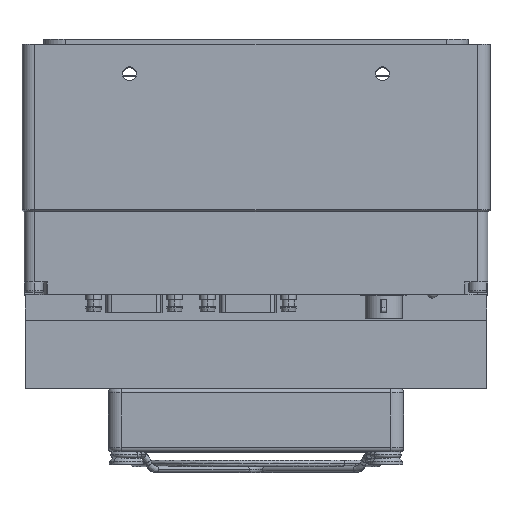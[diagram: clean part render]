
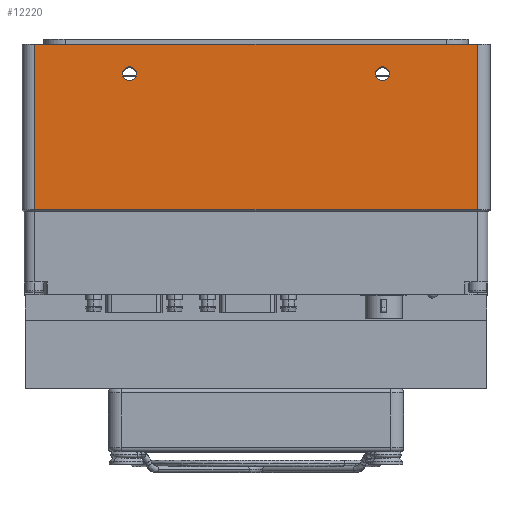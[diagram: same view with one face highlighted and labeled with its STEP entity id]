
A CAD part, top view. The second image highlights one B-rep face of the part: STEP entity #12220.
In plain terms, the highlighted planar face has unit normal (0, 0, 1).
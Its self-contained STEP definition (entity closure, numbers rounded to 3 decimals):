
#245 = CARTESIAN_POINT ( 'NONE',  ( 16.071, -6.367, 55.5 ) ) ;
#638 = EDGE_CURVE ( 'NONE', #2739, #38057, #37711, .T. ) ;
#871 = DIRECTION ( 'NONE',  ( 0., 0., 1. ) ) ;
#2359 = EDGE_CURVE ( 'NONE', #31451, #23597, #20215, .T. ) ;
#2728 = EDGE_LOOP ( 'NONE', ( #5930, #33111 ) ) ;
#2739 = VERTEX_POINT ( 'NONE', #35823 ) ;
#3161 = DIRECTION ( 'NONE',  ( 0., 0., 1. ) ) ;
#3383 = ORIENTED_EDGE ( 'NONE', *, *, #33578, .T. ) ;
#3575 = EDGE_LOOP ( 'NONE', ( #3383, #26064, #9707, #25652 ) ) ;
#4458 = CIRCLE ( 'NONE', #14395, 1.65 ) ;
#4572 = FACE_OUTER_BOUND ( 'NONE', #3575, .T. ) ;
#4763 = CARTESIAN_POINT ( 'NONE',  ( -88.929, -6.367, 55.5 ) ) ;
#5183 = EDGE_CURVE ( 'NONE', #12576, #18070, #4458, .T. ) ;
#5930 = ORIENTED_EDGE ( 'NONE', *, *, #11712, .F. ) ;
#6172 = LINE ( 'NONE', #12569, #16258 ) ;
#6437 = VECTOR ( 'NONE', #16219, 1000. ) ;
#6869 = CARTESIAN_POINT ( 'NONE',  ( 16.071, 32.853, 55.5 ) ) ;
#6908 = PLANE ( 'NONE',  #25659 ) ;
#7913 = LINE ( 'NONE', #16487, #21724 ) ;
#8792 = DIRECTION ( 'NONE',  ( -1., 0., 0. ) ) ;
#9085 = DIRECTION ( 'NONE',  ( 1., 0., 0. ) ) ;
#9157 = FACE_BOUND ( 'NONE', #15313, .T. ) ;
#9342 = DIRECTION ( 'NONE',  ( 0., 0., -1. ) ) ;
#9707 = ORIENTED_EDGE ( 'NONE', *, *, #18556, .T. ) ;
#11286 = AXIS2_PLACEMENT_3D ( 'NONE', #16637, #25521, #30891 ) ;
#11712 = EDGE_CURVE ( 'NONE', #38057, #2739, #37218, .T. ) ;
#12220 = ADVANCED_FACE ( 'NONE', ( #9157, #12375, #4572 ), #6908, .F. ) ;
#12375 = FACE_BOUND ( 'NONE', #2728, .T. ) ;
#12481 = DIRECTION ( 'NONE',  ( 0., 0., 1. ) ) ;
#12569 = CARTESIAN_POINT ( 'NONE',  ( 16.071, 29.803, 55.5 ) ) ;
#12576 = VERTEX_POINT ( 'NONE', #32283 ) ;
#14395 = AXIS2_PLACEMENT_3D ( 'NONE', #23873, #3161, #9085 ) ;
#15188 = DIRECTION ( 'NONE',  ( 1., 0., 0. ) ) ;
#15220 = VERTEX_POINT ( 'NONE', #20350 ) ;
#15263 = CARTESIAN_POINT ( 'NONE',  ( -106.429, 29.803, 55.5 ) ) ;
#15313 = EDGE_LOOP ( 'NONE', ( #34312, #25414 ) ) ;
#16219 = DIRECTION ( 'NONE',  ( 1., 0., 0. ) ) ;
#16258 = VECTOR ( 'NONE', #36429, 1000. ) ;
#16365 = DIRECTION ( 'NONE',  ( 0., -1., 0. ) ) ;
#16487 = CARTESIAN_POINT ( 'NONE',  ( -88.929, 29.803, 55.5 ) ) ;
#16637 = CARTESIAN_POINT ( 'NONE',  ( -6.429, 25.853, 55.5 ) ) ;
#18070 = VERTEX_POINT ( 'NONE', #36296 ) ;
#18556 = EDGE_CURVE ( 'NONE', #15220, #31451, #7913, .T. ) ;
#20215 = LINE ( 'NONE', #24736, #6437 ) ;
#20350 = CARTESIAN_POINT ( 'NONE',  ( -88.929, 32.853, 55.5 ) ) ;
#20459 = CARTESIAN_POINT ( 'NONE',  ( -106.429, 32.853, 55.5 ) ) ;
#21179 = DIRECTION ( 'NONE',  ( -1., 0., 0. ) ) ;
#21724 = VECTOR ( 'NONE', #16365, 1000. ) ;
#23536 = LINE ( 'NONE', #20459, #30385 ) ;
#23597 = VERTEX_POINT ( 'NONE', #245 ) ;
#23873 = CARTESIAN_POINT ( 'NONE',  ( -6.429, 25.853, 55.5 ) ) ;
#24736 = CARTESIAN_POINT ( 'NONE',  ( 30.571, -6.367, 55.5 ) ) ;
#25414 = ORIENTED_EDGE ( 'NONE', *, *, #30474, .F. ) ;
#25521 = DIRECTION ( 'NONE',  ( 0., 0., 1. ) ) ;
#25652 = ORIENTED_EDGE ( 'NONE', *, *, #2359, .T. ) ;
#25659 = AXIS2_PLACEMENT_3D ( 'NONE', #15263, #9342, #21179 ) ;
#25661 = CIRCLE ( 'NONE', #11286, 1.65 ) ;
#26064 = ORIENTED_EDGE ( 'NONE', *, *, #26741, .T. ) ;
#26396 = AXIS2_PLACEMENT_3D ( 'NONE', #30042, #12481, #15188 ) ;
#26741 = EDGE_CURVE ( 'NONE', #32387, #15220, #23536, .T. ) ;
#30042 = CARTESIAN_POINT ( 'NONE',  ( -66.429, 25.853, 55.5 ) ) ;
#30385 = VECTOR ( 'NONE', #8792, 1000. ) ;
#30474 = EDGE_CURVE ( 'NONE', #18070, #12576, #25661, .T. ) ;
#30545 = DIRECTION ( 'NONE',  ( 1., 0., 0. ) ) ;
#30891 = DIRECTION ( 'NONE',  ( 1., 0., 0. ) ) ;
#31451 = VERTEX_POINT ( 'NONE', #4763 ) ;
#32283 = CARTESIAN_POINT ( 'NONE',  ( -4.779, 25.853, 55.5 ) ) ;
#32387 = VERTEX_POINT ( 'NONE', #6869 ) ;
#33111 = ORIENTED_EDGE ( 'NONE', *, *, #638, .F. ) ;
#33578 = EDGE_CURVE ( 'NONE', #23597, #32387, #6172, .T. ) ;
#34312 = ORIENTED_EDGE ( 'NONE', *, *, #5183, .F. ) ;
#35823 = CARTESIAN_POINT ( 'NONE',  ( -68.079, 25.853, 55.5 ) ) ;
#36192 = CARTESIAN_POINT ( 'NONE',  ( -66.429, 25.853, 55.5 ) ) ;
#36296 = CARTESIAN_POINT ( 'NONE',  ( -8.079, 25.853, 55.5 ) ) ;
#36429 = DIRECTION ( 'NONE',  ( 0., 1., 0. ) ) ;
#36932 = AXIS2_PLACEMENT_3D ( 'NONE', #36192, #871, #30545 ) ;
#37218 = CIRCLE ( 'NONE', #26396, 1.65 ) ;
#37711 = CIRCLE ( 'NONE', #36932, 1.65 ) ;
#37761 = CARTESIAN_POINT ( 'NONE',  ( -64.779, 25.853, 55.5 ) ) ;
#38057 = VERTEX_POINT ( 'NONE', #37761 ) ;
